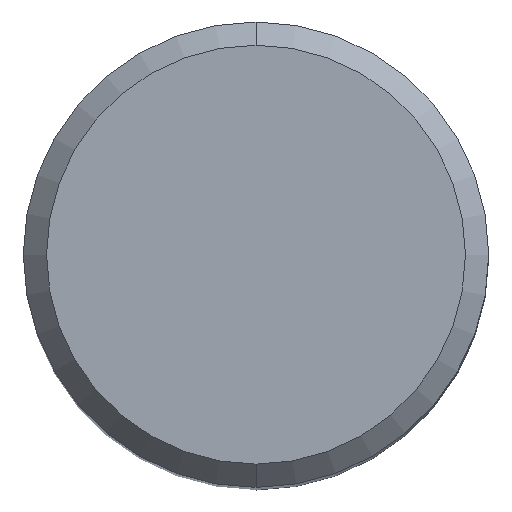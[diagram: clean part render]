
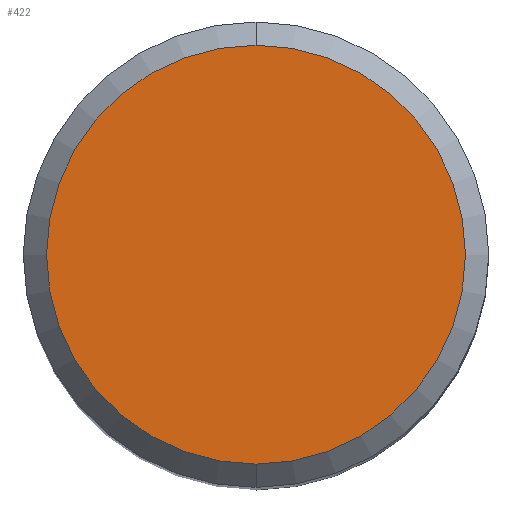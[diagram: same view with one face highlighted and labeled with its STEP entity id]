
A CAD part, top view. The second image highlights one B-rep face of the part: STEP entity #422.
In plain terms, the highlighted planar face has unit normal (0, 0, 1).
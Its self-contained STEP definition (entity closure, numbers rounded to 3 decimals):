
#184=EDGE_CURVE('',#350,#318,#493,.T.);
#244=EDGE_CURVE('',#318,#350,#560,.T.);
#318=VERTEX_POINT('',#642);
#350=VERTEX_POINT('',#677);
#422=ADVANCED_FACE('',(#759),#760,.T.);
#493=CIRCLE('',#853,7.2);
#560=CIRCLE('',#953,7.2);
#642=CARTESIAN_POINT('',(0.0,7.2,0.0));
#677=CARTESIAN_POINT('',(0.,-7.2,0.0));
#759=FACE_OUTER_BOUND('',#1386,.T.);
#760=PLANE('',#1387);
#853=AXIS2_PLACEMENT_3D('',#1516,#1517,#1518);
#953=AXIS2_PLACEMENT_3D('',#1604,#1605,#1606);
#1386=EDGE_LOOP('',(#1840,#1841));
#1387=AXIS2_PLACEMENT_3D('',#1842,#1843,#1844);
#1516=CARTESIAN_POINT('',(0.0,0.0,0.0));
#1517=DIRECTION('',(0.0,0.0,-1.0));
#1518=DIRECTION('',(0.0,1.0,0.0));
#1604=CARTESIAN_POINT('',(0.0,0.0,0.0));
#1605=DIRECTION('',(0.0,0.0,-1.0));
#1606=DIRECTION('',(0.0,1.0,0.0));
#1840=ORIENTED_EDGE('',*,*,#244,.F.);
#1841=ORIENTED_EDGE('',*,*,#184,.F.);
#1842=CARTESIAN_POINT('',(0.0,3.6,0.0));
#1843=DIRECTION('',(-0.0,0.0,1.0));
#1844=DIRECTION('',(0.0,-1.0,0.0));
